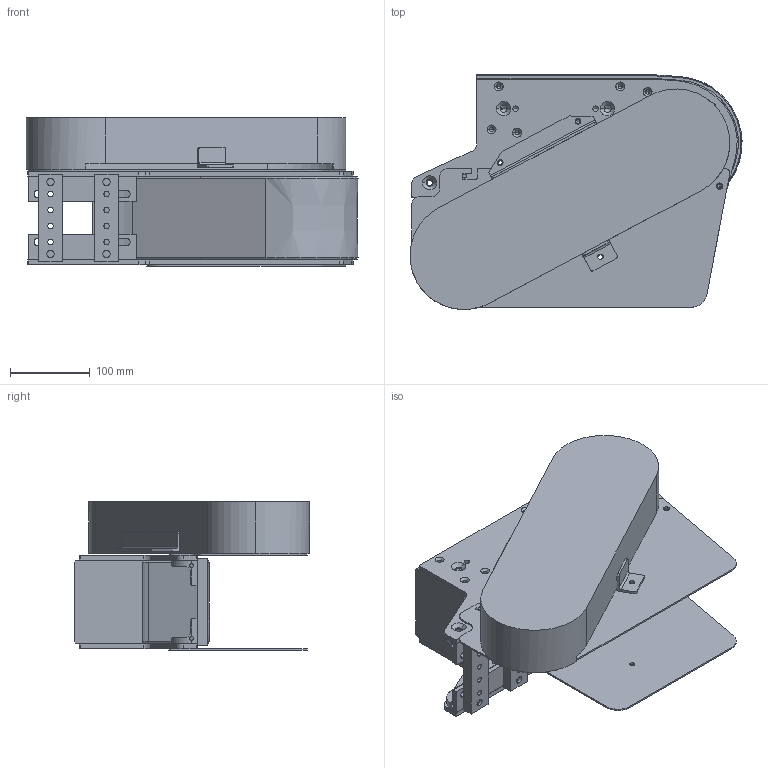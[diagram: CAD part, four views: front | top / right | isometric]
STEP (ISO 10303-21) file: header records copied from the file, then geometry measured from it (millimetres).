
FILE_DESCRIPTION (( 'STEP AP214' ), '1' );
FILE_NAME ('FCSD OR TL.step', '2017-04-07T11:06:36', ( '' ), ( '' ), 'SwSTEP 2.0', 'SolidWorks 2016', '' );
FILE_SCHEMA (( 'AUTOMOTIVE_DESIGN' ));
Length unit declared in the file: millimetre
Products named in the file (1): FCSD OR TL
Bounding box: 415.14 x 293.97 x 186 mm (x, y, z)
Volume: 5540124.5 mm3; surface area: 863812.5 mm2
Topology: 10 solids, 10 shells, 567 faces, 1552 edges, 966 vertices
Faces by surface type: cylinder 270, plane 152, cone 134, bspline 7, torus 4
Entity records: 21011 total; most frequent: CARTESIAN_POINT 4049, DIRECTION 3202, ORIENTED_EDGE 2960, EDGE_CURVE 1480, AXIS2_PLACEMENT_3D 1213, VERTEX_POINT 966, VECTOR 776, LINE 776
